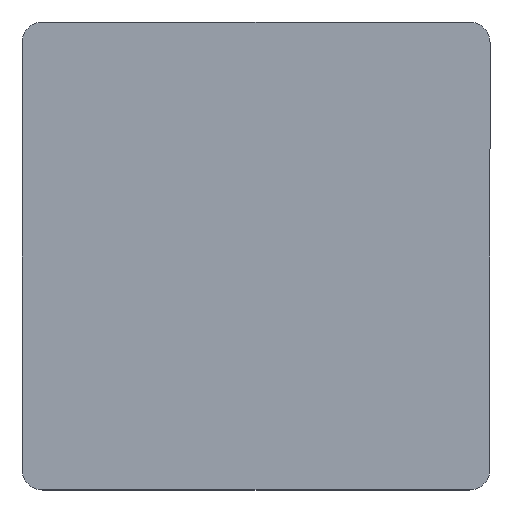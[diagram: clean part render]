
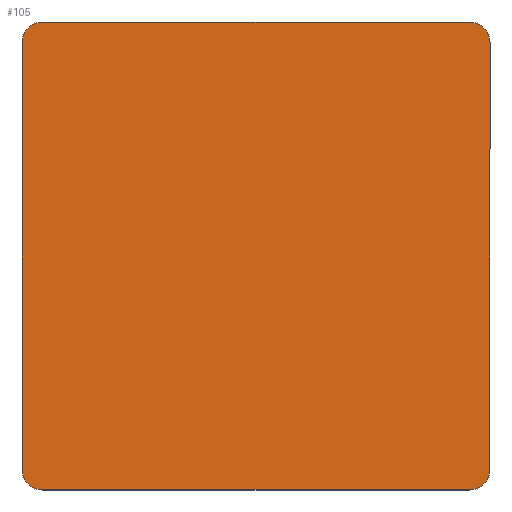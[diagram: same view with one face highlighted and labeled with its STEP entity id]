
A CAD part, front view. The second image highlights one B-rep face of the part: STEP entity #105.
In plain terms, the highlighted planar face has unit normal (0, -1, 0).
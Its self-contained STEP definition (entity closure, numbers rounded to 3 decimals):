
#2 = EDGE_CURVE ( 'NONE', #570, #2416, #2940, .T. ) ;
#10 = EDGE_CURVE ( 'NONE', #3609, #2170, #900, .T. ) ;
#44 = CIRCLE ( 'NONE', #3479, 4. ) ;
#46 = CARTESIAN_POINT ( 'NONE',  ( 41., 0., 45. ) ) ;
#63 = CARTESIAN_POINT ( 'NONE',  ( -41., 0., 45. ) ) ;
#66 = VECTOR ( 'NONE', #2300, 1000. ) ;
#105 = ADVANCED_FACE ( 'NONE', ( #401 ), #2119, .F. ) ;
#195 = ORIENTED_EDGE ( 'NONE', *, *, #3156, .F. ) ;
#214 = CARTESIAN_POINT ( 'NONE',  ( 41., 0., -45. ) ) ;
#292 = VERTEX_POINT ( 'NONE', #3132 ) ;
#388 = EDGE_CURVE ( 'NONE', #3219, #1597, #44, .T. ) ;
#401 = FACE_OUTER_BOUND ( 'NONE', #841, .T. ) ;
#541 = ORIENTED_EDGE ( 'NONE', *, *, #1541, .F. ) ;
#548 = CARTESIAN_POINT ( 'NONE',  ( -45., 0., 41. ) ) ;
#570 = VERTEX_POINT ( 'NONE', #1208 ) ;
#607 = DIRECTION ( 'NONE',  ( 0., 1., 0. ) ) ;
#613 = ORIENTED_EDGE ( 'NONE', *, *, #2479, .F. ) ;
#751 = AXIS2_PLACEMENT_3D ( 'NONE', #1295, #3662, #1877 ) ;
#830 = DIRECTION ( 'NONE',  ( 0., 1., 0. ) ) ;
#841 = EDGE_LOOP ( 'NONE', ( #2429, #1737, #1765, #613, #2444, #195, #541, #3755 ) ) ;
#858 = EDGE_CURVE ( 'NONE', #292, #570, #1071, .T. ) ;
#873 = DIRECTION ( 'NONE',  ( 0., 0., 1. ) ) ;
#900 = LINE ( 'NONE', #63, #978 ) ;
#909 = CARTESIAN_POINT ( 'NONE',  ( 45., 0., -41. ) ) ;
#978 = VECTOR ( 'NONE', #3311, 1000. ) ;
#1071 = CIRCLE ( 'NONE', #1706, 4. ) ;
#1110 = CARTESIAN_POINT ( 'NONE',  ( 41., 0., -41. ) ) ;
#1123 = CIRCLE ( 'NONE', #1186, 4. ) ;
#1186 = AXIS2_PLACEMENT_3D ( 'NONE', #3812, #830, #1794 ) ;
#1208 = CARTESIAN_POINT ( 'NONE',  ( -45., 0., -41. ) ) ;
#1295 = CARTESIAN_POINT ( 'NONE',  ( -41., 0., 41. ) ) ;
#1406 = CARTESIAN_POINT ( 'NONE',  ( -41., 0., -45. ) ) ;
#1457 = CARTESIAN_POINT ( 'NONE',  ( -45., 0., -41. ) ) ;
#1541 = EDGE_CURVE ( 'NONE', #2170, #3345, #1123, .T. ) ;
#1597 = VERTEX_POINT ( 'NONE', #214 ) ;
#1706 = AXIS2_PLACEMENT_3D ( 'NONE', #3389, #3071, #2494 ) ;
#1737 = ORIENTED_EDGE ( 'NONE', *, *, #2, .F. ) ;
#1765 = ORIENTED_EDGE ( 'NONE', *, *, #858, .F. ) ;
#1794 = DIRECTION ( 'NONE',  ( 0., 0., -1. ) ) ;
#1877 = DIRECTION ( 'NONE',  ( 0., 0., 1. ) ) ;
#2030 = DIRECTION ( 'NONE',  ( 0., 1., 0. ) ) ;
#2119 = PLANE ( 'NONE',  #3616 ) ;
#2170 = VERTEX_POINT ( 'NONE', #46 ) ;
#2300 = DIRECTION ( 'NONE',  ( -1., 0., 0. ) ) ;
#2416 = VERTEX_POINT ( 'NONE', #548 ) ;
#2429 = ORIENTED_EDGE ( 'NONE', *, *, #3785, .F. ) ;
#2444 = ORIENTED_EDGE ( 'NONE', *, *, #388, .F. ) ;
#2479 = EDGE_CURVE ( 'NONE', #1597, #292, #2878, .T. ) ;
#2494 = DIRECTION ( 'NONE',  ( 0., 0., 1. ) ) ;
#2673 = VECTOR ( 'NONE', #3038, 1000. ) ;
#2757 = DIRECTION ( 'NONE',  ( 0., 0., -1. ) ) ;
#2788 = CARTESIAN_POINT ( 'NONE',  ( -41., 0., 41. ) ) ;
#2878 = LINE ( 'NONE', #1406, #66 ) ;
#2940 = LINE ( 'NONE', #1457, #2673 ) ;
#2997 = DIRECTION ( 'NONE',  ( 0., 0., 1. ) ) ;
#3008 = LINE ( 'NONE', #909, #3443 ) ;
#3038 = DIRECTION ( 'NONE',  ( 0., 0., 1. ) ) ;
#3071 = DIRECTION ( 'NONE',  ( 0., 1., 0. ) ) ;
#3132 = CARTESIAN_POINT ( 'NONE',  ( -41., 0., -45. ) ) ;
#3156 = EDGE_CURVE ( 'NONE', #3345, #3219, #3008, .T. ) ;
#3219 = VERTEX_POINT ( 'NONE', #3362 ) ;
#3311 = DIRECTION ( 'NONE',  ( 1., 0., 0. ) ) ;
#3345 = VERTEX_POINT ( 'NONE', #3405 ) ;
#3362 = CARTESIAN_POINT ( 'NONE',  ( 45., 0., -41. ) ) ;
#3389 = CARTESIAN_POINT ( 'NONE',  ( -41., 0., -41. ) ) ;
#3405 = CARTESIAN_POINT ( 'NONE',  ( 45., 0., 41. ) ) ;
#3443 = VECTOR ( 'NONE', #2757, 1000. ) ;
#3479 = AXIS2_PLACEMENT_3D ( 'NONE', #1110, #2030, #873 ) ;
#3609 = VERTEX_POINT ( 'NONE', #3855 ) ;
#3616 = AXIS2_PLACEMENT_3D ( 'NONE', #2788, #607, #2997 ) ;
#3662 = DIRECTION ( 'NONE',  ( 0., 1., 0. ) ) ;
#3755 = ORIENTED_EDGE ( 'NONE', *, *, #10, .F. ) ;
#3785 = EDGE_CURVE ( 'NONE', #2416, #3609, #3828, .T. ) ;
#3812 = CARTESIAN_POINT ( 'NONE',  ( 41., 0., 41. ) ) ;
#3828 = CIRCLE ( 'NONE', #751, 4. ) ;
#3855 = CARTESIAN_POINT ( 'NONE',  ( -41., 0., 45. ) ) ;
